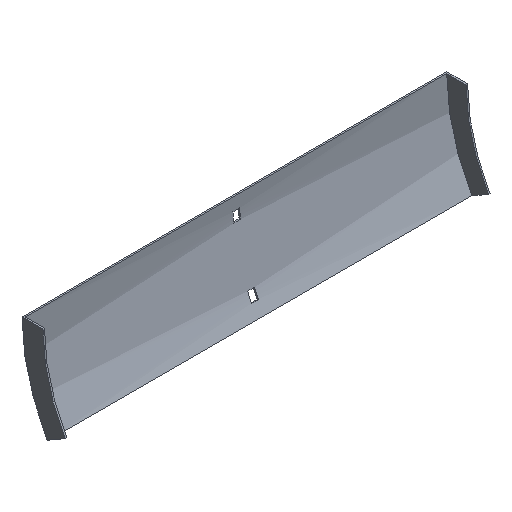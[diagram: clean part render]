
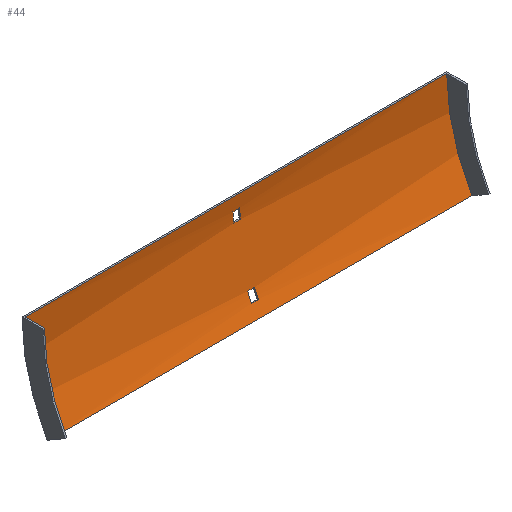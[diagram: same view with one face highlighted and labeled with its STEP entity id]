
A CAD part, isometric view. The second image highlights one B-rep face of the part: STEP entity #44.
In plain terms, the highlighted cylindrical face has radius 179 mm (diameter 358 mm), a partial arc.
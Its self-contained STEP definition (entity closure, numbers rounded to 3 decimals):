
#4 = LINE ( 'NONE', #190, #161 ) ;
#7 = ORIENTED_EDGE ( 'NONE', *, *, #548, .F. ) ;
#18 = CARTESIAN_POINT ( 'NONE',  ( 203.5, -16.052, -70.695 ) ) ;
#21 = VECTOR ( 'NONE', #76, 1000. ) ;
#22 = CIRCLE ( 'NONE', #574, 179. ) ;
#24 = DIRECTION ( 'NONE',  ( 1., 0., 0. ) ) ;
#31 = DIRECTION ( 'NONE',  ( 0., 0., 1. ) ) ;
#32 = VERTEX_POINT ( 'NONE', #92 ) ;
#37 = EDGE_LOOP ( 'NONE', ( #260, #166, #456, #81 ) ) ;
#42 = VERTEX_POINT ( 'NONE', #223 ) ;
#44 = ADVANCED_FACE ( 'NONE', ( #473, #348, #449 ), #217, .F. ) ;
#46 = AXIS2_PLACEMENT_3D ( 'NONE', #340, #482, #91 ) ;
#55 = EDGE_CURVE ( 'NONE', #316, #528, #537, .T. ) ;
#59 = ORIENTED_EDGE ( 'NONE', *, *, #55, .T. ) ;
#60 = CARTESIAN_POINT ( 'NONE',  ( 3.25, -180.5, 0. ) ) ;
#70 = DIRECTION ( 'NONE',  ( 1., 0., 0. ) ) ;
#73 = DIRECTION ( 'NONE',  ( 0., 0., -1. ) ) ;
#74 = EDGE_LOOP ( 'NONE', ( #178, #356, #82, #172 ) ) ;
#76 = DIRECTION ( 'NONE',  ( -1., 0., 0. ) ) ;
#79 = ORIENTED_EDGE ( 'NONE', *, *, #229, .T. ) ;
#81 = ORIENTED_EDGE ( 'NONE', *, *, #363, .T. ) ;
#82 = ORIENTED_EDGE ( 'NONE', *, *, #153, .F. ) ;
#91 = DIRECTION ( 'NONE',  ( 0., 0., 1. ) ) ;
#92 = CARTESIAN_POINT ( 'NONE',  ( 3.25, -1.903, -12. ) ) ;
#101 = EDGE_CURVE ( 'NONE', #561, #122, #369, .T. ) ;
#109 = CARTESIAN_POINT ( 'NONE',  ( -3.25, -16.052, -70.695 ) ) ;
#110 = DIRECTION ( 'NONE',  ( 1., 0., 0. ) ) ;
#122 = VERTEX_POINT ( 'NONE', #109 ) ;
#137 = AXIS2_PLACEMENT_3D ( 'NONE', #489, #357, #404 ) ;
#153 = EDGE_CURVE ( 'NONE', #553, #32, #497, .T. ) ;
#161 = VECTOR ( 'NONE', #480, 1000. ) ;
#162 = EDGE_CURVE ( 'NONE', #581, #448, #22, .T. ) ;
#166 = ORIENTED_EDGE ( 'NONE', *, *, #101, .T. ) ;
#169 = CARTESIAN_POINT ( 'NONE',  ( -3.25, -180.5, 0. ) ) ;
#172 = ORIENTED_EDGE ( 'NONE', *, *, #522, .F. ) ;
#173 = VERTEX_POINT ( 'NONE', #452 ) ;
#177 = AXIS2_PLACEMENT_3D ( 'NONE', #169, #24, #354 ) ;
#178 = ORIENTED_EDGE ( 'NONE', *, *, #162, .F. ) ;
#190 = CARTESIAN_POINT ( 'NONE',  ( 203.5, -19.83, -78.906 ) ) ;
#192 = VECTOR ( 'NONE', #70, 1000. ) ;
#199 = CARTESIAN_POINT ( 'NONE',  ( 202., -25.481, -89.5 ) ) ;
#214 = VECTOR ( 'NONE', #606, 1000. ) ;
#217 = CYLINDRICAL_SURFACE ( 'NONE', #137, 179. ) ;
#223 = CARTESIAN_POINT ( 'NONE',  ( -202., -25.481, -89.5 ) ) ;
#227 = EDGE_CURVE ( 'NONE', #481, #42, #239, .T. ) ;
#229 = EDGE_CURVE ( 'NONE', #481, #316, #305, .T. ) ;
#230 = LINE ( 'NONE', #278, #214 ) ;
#237 = DIRECTION ( 'NONE',  ( -1., 0., 0. ) ) ;
#239 = LINE ( 'NONE', #199, #602 ) ;
#240 = AXIS2_PLACEMENT_3D ( 'NONE', #60, #249, #306 ) ;
#247 = CARTESIAN_POINT ( 'NONE',  ( 202., -1.5, 0. ) ) ;
#249 = DIRECTION ( 'NONE',  ( -1., 0., 0. ) ) ;
#252 = AXIS2_PLACEMENT_3D ( 'NONE', #346, #110, #472 ) ;
#257 = EDGE_LOOP ( 'NONE', ( #7, #515, #79, #59 ) ) ;
#260 = ORIENTED_EDGE ( 'NONE', *, *, #565, .T. ) ;
#261 = DIRECTION ( 'NONE',  ( -1., 0., 0. ) ) ;
#264 = CARTESIAN_POINT ( 'NONE',  ( -3.25, -2.736, -21. ) ) ;
#269 = VERTEX_POINT ( 'NONE', #333 ) ;
#278 = CARTESIAN_POINT ( 'NONE',  ( 203.5, -2.736, -21. ) ) ;
#288 = AXIS2_PLACEMENT_3D ( 'NONE', #501, #399, #73 ) ;
#301 = DIRECTION ( 'NONE',  ( -1., 0., 0. ) ) ;
#302 = LINE ( 'NONE', #411, #21 ) ;
#305 = CIRCLE ( 'NONE', #46, 179. ) ;
#306 = DIRECTION ( 'NONE',  ( 0., 0., 1. ) ) ;
#316 = VERTEX_POINT ( 'NONE', #531 ) ;
#331 = VECTOR ( 'NONE', #301, 1000. ) ;
#333 = CARTESIAN_POINT ( 'NONE',  ( 3.25, -19.83, -78.906 ) ) ;
#340 = CARTESIAN_POINT ( 'NONE',  ( 202., -180.5, 0. ) ) ;
#346 = CARTESIAN_POINT ( 'NONE',  ( -202., -180.5, 0. ) ) ;
#348 = FACE_OUTER_BOUND ( 'NONE', #257, .T. ) ;
#354 = DIRECTION ( 'NONE',  ( 0., 0., -1. ) ) ;
#356 = ORIENTED_EDGE ( 'NONE', *, *, #436, .F. ) ;
#357 = DIRECTION ( 'NONE',  ( -1., 0., 0. ) ) ;
#363 = EDGE_CURVE ( 'NONE', #173, #269, #517, .T. ) ;
#369 = CIRCLE ( 'NONE', #177, 179. ) ;
#383 = CIRCLE ( 'NONE', #252, 179. ) ;
#384 = CARTESIAN_POINT ( 'NONE',  ( -3.25, -19.83, -78.906 ) ) ;
#399 = DIRECTION ( 'NONE',  ( 1., 0., 0. ) ) ;
#404 = DIRECTION ( 'NONE',  ( 0., 0., 1. ) ) ;
#408 = CARTESIAN_POINT ( 'NONE',  ( -3.25, -180.5, 0. ) ) ;
#409 = EDGE_CURVE ( 'NONE', #122, #173, #534, .T. ) ;
#411 = CARTESIAN_POINT ( 'NONE',  ( 203.5, -1.903, -12. ) ) ;
#419 = CARTESIAN_POINT ( 'NONE',  ( 202., -25.481, -89.5 ) ) ;
#426 = CARTESIAN_POINT ( 'NONE',  ( -202., -1.5, 0. ) ) ;
#436 = EDGE_CURVE ( 'NONE', #32, #581, #302, .T. ) ;
#441 = CARTESIAN_POINT ( 'NONE',  ( -3.25, -1.903, -12. ) ) ;
#448 = VERTEX_POINT ( 'NONE', #264 ) ;
#449 = FACE_BOUND ( 'NONE', #37, .T. ) ;
#452 = CARTESIAN_POINT ( 'NONE',  ( 3.25, -16.052, -70.695 ) ) ;
#456 = ORIENTED_EDGE ( 'NONE', *, *, #409, .T. ) ;
#472 = DIRECTION ( 'NONE',  ( 0., 0., 1. ) ) ;
#473 = FACE_BOUND ( 'NONE', #74, .T. ) ;
#477 = CARTESIAN_POINT ( 'NONE',  ( 3.25, -2.736, -21. ) ) ;
#480 = DIRECTION ( 'NONE',  ( -1., 0., 0. ) ) ;
#481 = VERTEX_POINT ( 'NONE', #419 ) ;
#482 = DIRECTION ( 'NONE',  ( 1., 0., 0. ) ) ;
#489 = CARTESIAN_POINT ( 'NONE',  ( 203.5, -180.5, 0. ) ) ;
#497 = CIRCLE ( 'NONE', #288, 179. ) ;
#501 = CARTESIAN_POINT ( 'NONE',  ( 3.25, -180.5, 0. ) ) ;
#515 = ORIENTED_EDGE ( 'NONE', *, *, #227, .F. ) ;
#517 = CIRCLE ( 'NONE', #240, 179. ) ;
#522 = EDGE_CURVE ( 'NONE', #448, #553, #230, .T. ) ;
#528 = VERTEX_POINT ( 'NONE', #426 ) ;
#531 = CARTESIAN_POINT ( 'NONE',  ( 202., -1.5, 0. ) ) ;
#534 = LINE ( 'NONE', #18, #192 ) ;
#537 = LINE ( 'NONE', #247, #331 ) ;
#548 = EDGE_CURVE ( 'NONE', #42, #528, #383, .T. ) ;
#553 = VERTEX_POINT ( 'NONE', #477 ) ;
#561 = VERTEX_POINT ( 'NONE', #384 ) ;
#565 = EDGE_CURVE ( 'NONE', #269, #561, #4, .T. ) ;
#574 = AXIS2_PLACEMENT_3D ( 'NONE', #408, #261, #31 ) ;
#581 = VERTEX_POINT ( 'NONE', #441 ) ;
#602 = VECTOR ( 'NONE', #237, 1000. ) ;
#606 = DIRECTION ( 'NONE',  ( 1., 0., 0. ) ) ;
